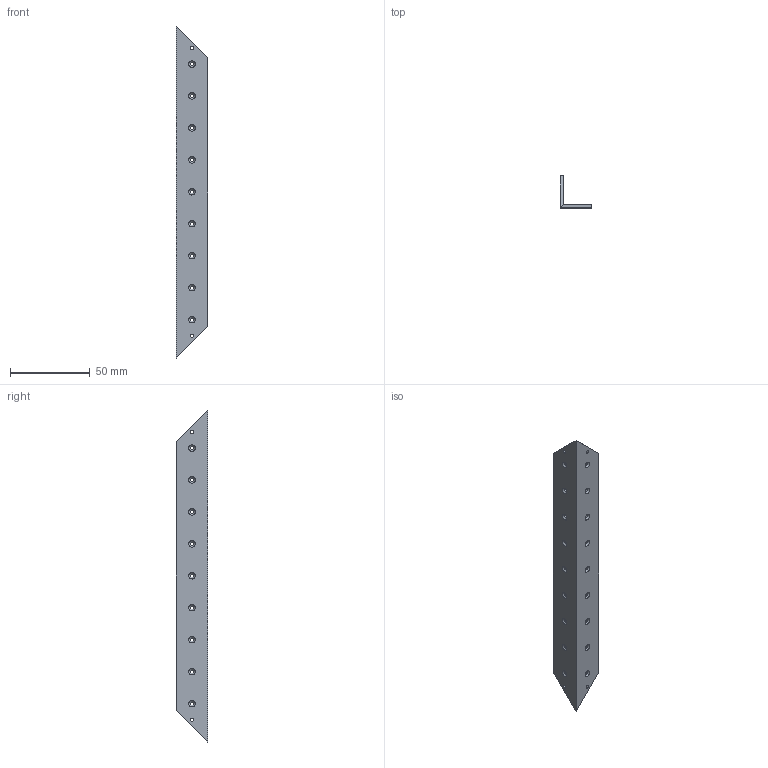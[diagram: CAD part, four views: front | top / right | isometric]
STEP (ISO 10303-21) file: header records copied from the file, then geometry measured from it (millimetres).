
FILE_DESCRIPTION (( 'STEP AP214' ), '1' );
FILE_NAME ('SC7.STEP', '2016-02-27T07:59:24', ( '' ), ( '' ), 'SwSTEP 2.0', 'SolidWorks 2012', '' );
FILE_SCHEMA (( 'AUTOMOTIVE_DESIGN' ));
Length unit declared in the file: millimetre
Products named in the file (1): SC7
Bounding box: 20 x 20 x 207.8 mm (x, y, z)
Volume: 13984.5 mm3; surface area: 15182.4 mm2
Topology: 1 solids, 1 shells, 90 faces, 260 edges, 172 vertices
Faces by surface type: cylinder 44, cone 36, plane 10
Entity records: 3174 total; most frequent: DIRECTION 602, CARTESIAN_POINT 523, ORIENTED_EDGE 520, EDGE_CURVE 260, AXIS2_PLACEMENT_3D 251, VERTEX_POINT 172, CIRCLE 160, EDGE_LOOP 134
